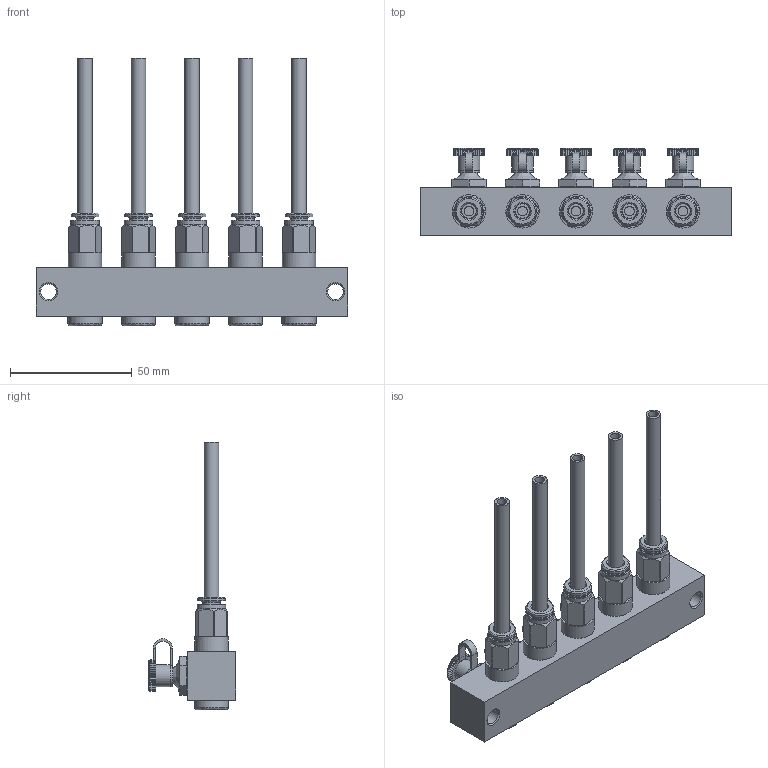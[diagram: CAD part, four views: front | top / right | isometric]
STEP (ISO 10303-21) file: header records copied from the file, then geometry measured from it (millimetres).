
FILE_DESCRIPTION (( 'STEP AP214' ), '1' );
FILE_NAME ('1460_0105_HD.STEP', '2026-01-26T13:45:04', ( '' ), ( '' ), 'SwSTEP 2.0', 'SolidWorks 2022', '' );
FILE_SCHEMA (( 'AUTOMOTIVE_DESIGN' ));
Length unit declared in the file: millimetre
Products named in the file (14): Staubkappe_Fettnippel; Lasche_Staubkappe; RIVOLUZIONE_0_2; Staubkappe; H200139_HDS01_6_M10X1_08.05.17; 1460_01_05_ASL-05; 1460_steckverscgraubung_Rohr 6x1; schmiernippel_M10_1; POLY_6_4_Bogen_2; OR 7.66X1.78_1; 749-M10X1-A; Schmiernippel_Staubkappe; 1460_0105_HD; DR6-C_HDX_25.07.16_1
Assembly tree (25 placements, depth 4):
  1460_0105_HD
    1460_01_05_ASL-05
    Schmiernippel_Staubkappe  x5
      schmiernippel_M10_1
      Staubkappe_Fettnippel
        Lasche_Staubkappe
        Staubkappe
    749-M10X1-A  x5
    1460_steckverscgraubung_Rohr 6x1  x5
      POLY_6_4_Bogen_2
      H200139_HDS01_6_M10X1_08.05.17
        OR 7.66X1.78_1
        DR6-C_HDX_25.07.16_1
        RIVOLUZIONE_0_2
Bounding box: 128 x 36 x 110.1 mm (x, y, z)
Volume: 66143.9 mm3; surface area: 57417 mm2
Topology: 36 solids, 46 shells, 1412 faces, 3753 edges, 2483 vertices
Faces by surface type: plane 866, bspline 230, cylinder 203, cone 113
Full cylindrical faces by diameter (mm): 1.5 x5, 4 x5, 4.2 x5, 5 x5, 6 x10, 6.2 x5, 6.3 x5, 6.495 x5, 6.5 x2, 7.2 x5, 8.4 x5, 8.5 x5, 9 x5, 9.9 x5, 10 x20, 10.3 x5, 11.5 x5, 11.7 x5, 11.9 x5, 13.7 x5, 14 x5
Entity records: 70453 total; most frequent: CARTESIAN_POINT 59559, ORIENTED_EDGE 2451, DIRECTION 1309, EDGE_CURVE 1227, VERTEX_POINT 848, EDGE_LOOP 573, FACE_OUTER_BOUND 499, AXIS2_PLACEMENT_3D 477
